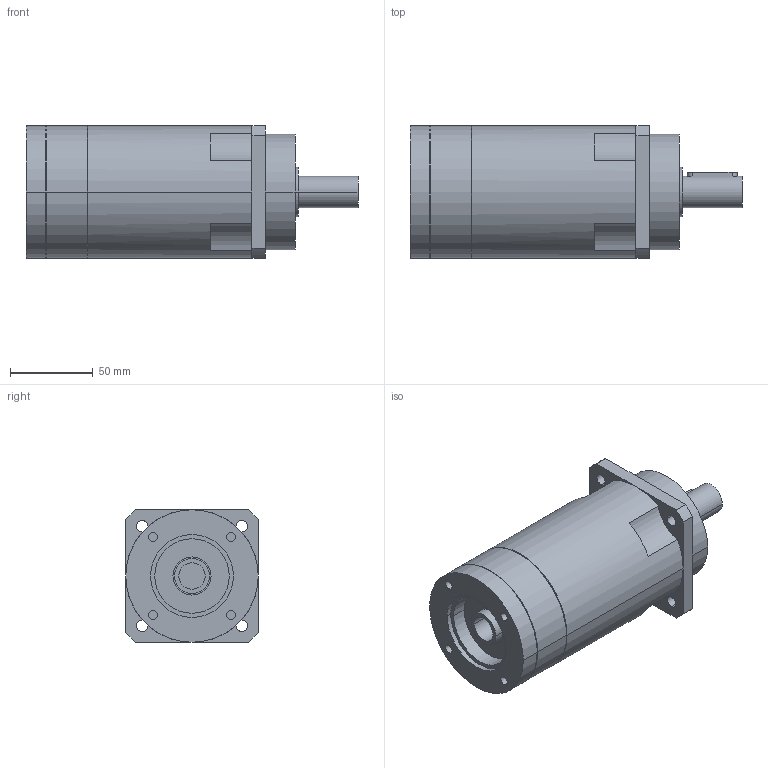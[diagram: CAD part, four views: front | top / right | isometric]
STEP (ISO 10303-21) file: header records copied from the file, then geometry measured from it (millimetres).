
FILE_DESCRIPTION(('CoCreate Modeling STEP Export'),'2;1');
FILE_NAME('GPR100_ig-48-64-80-100-120-144-180-216_19_B5_15.87_P29.stp','2014-08-26T11:55:25',(''),(''),'CoCreate Modeling STEP processor for AP214 (Solid Model)','CoCreate Modeling 16.00C 25-Feb-2009 (C) Parametric Technology GmbH','');
FILE_SCHEMA(('AUTOMOTIVE_DESIGN { 1 0 10303 214 1 1 1 1 }'));
Length unit declared in the file: millimetre
Products named in the file (2): GPR100_ig-48-64-80-100-120-144-180-216_19_B5_15.87_P29
Assembly tree (1 placements, depth 2):
  GPR100_ig-48-64-80-100-120-144-180-216_19_B5_15.87_P29
    GPR100_ig-48-64-80-100-120-144-180-216_19_B5_15.87_P29
Bounding box: 200.4 x 80 x 80 mm (x, y, z)
Volume: 781301.2 mm3; surface area: 62227 mm2
Topology: 1 solids, 1 shells, 87 faces, 220 edges, 148 vertices
Faces by surface type: cylinder 50, plane 31, cone 6
Entity records: 2354 total; most frequent: ORIENTED_EDGE 436, CARTESIAN_POINT 426, DIRECTION 346, EDGE_CURVE 218, VERTEX_POINT 148, AXIS2_PLACEMENT_3D 132, EDGE_LOOP 110, FACE_OUTER_BOUND 87
